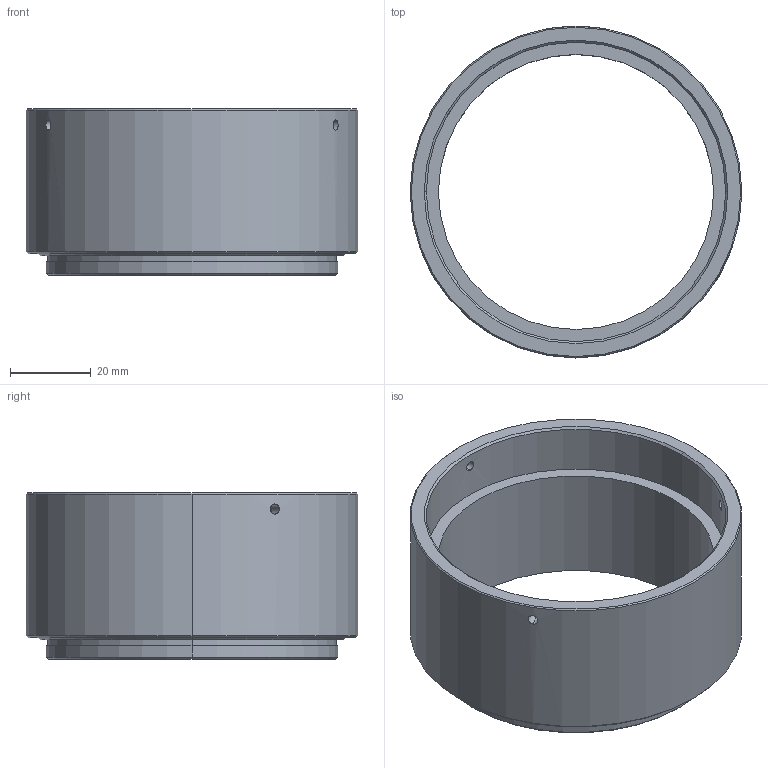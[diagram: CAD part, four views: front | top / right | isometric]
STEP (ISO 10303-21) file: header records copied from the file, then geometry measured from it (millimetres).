
FILE_DESCRIPTION (( 'STEP AP214' ), '1' );
FILE_NAME ('CA-V74M72-12.0.STEP', '2026-02-25T01:44:09', ( '' ), ( '' ), 'SwSTEP 2.0', 'SolidWorks 2025', '' );
FILE_SCHEMA (( 'AUTOMOTIVE_DESIGN' ));
Length unit declared in the file: millimetre
Products named in the file (1): CA-V74M72-12.0
Bounding box: 82 x 82 x 41.1 mm (x, y, z)
Volume: 52920.6 mm3; surface area: 22657.2 mm2
Topology: 1 solids, 1 shells, 32 faces, 70 edges, 44 vertices
Faces by surface type: cylinder 16, cone 10, plane 6
Entity records: 1125 total; most frequent: CARTESIAN_POINT 375, DIRECTION 156, ORIENTED_EDGE 140, EDGE_CURVE 70, AXIS2_PLACEMENT_3D 65, VERTEX_POINT 44, EDGE_LOOP 44, ADVANCED_FACE 32
